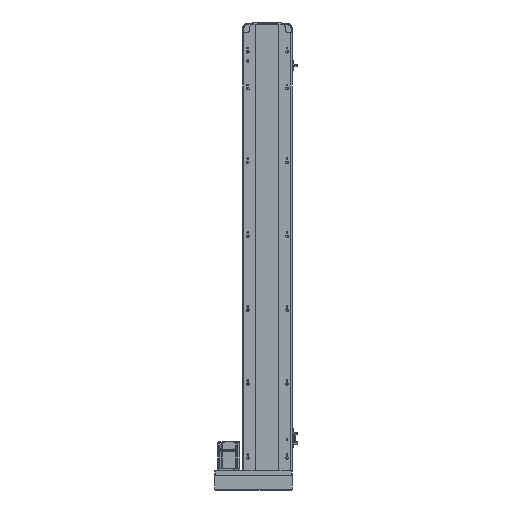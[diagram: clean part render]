
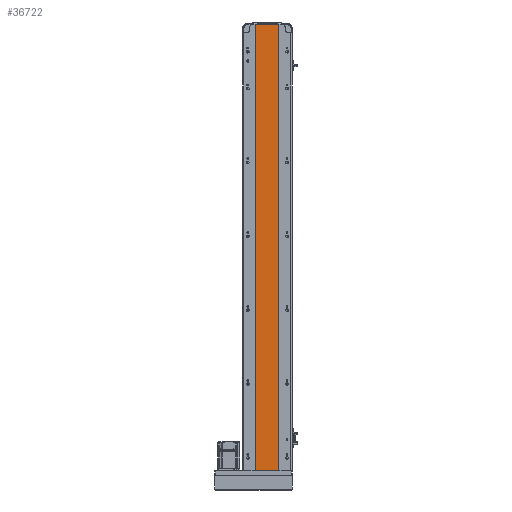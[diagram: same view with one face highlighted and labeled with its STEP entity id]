
A CAD part, front view. The second image highlights one B-rep face of the part: STEP entity #36722.
In plain terms, the highlighted planar face has unit normal (0, -1, 0).
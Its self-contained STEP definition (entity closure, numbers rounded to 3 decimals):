
#530 = VERTEX_POINT ( 'NONE', #25244 ) ;
#788 = VERTEX_POINT ( 'NONE', #5837 ) ;
#879 = FACE_OUTER_BOUND ( 'NONE', #29273, .T. ) ;
#2734 = LINE ( 'NONE', #17199, #49322 ) ;
#3825 = VERTEX_POINT ( 'NONE', #9496 ) ;
#5102 = EDGE_CURVE ( 'NONE', #788, #23937, #9906, .T. ) ;
#5837 = CARTESIAN_POINT ( 'NONE',  ( -32., 1., 1209. ) ) ;
#9496 = CARTESIAN_POINT ( 'NONE',  ( 30., 1., 1209. ) ) ;
#9906 = LINE ( 'NONE', #42806, #21888 ) ;
#11321 = CARTESIAN_POINT ( 'NONE',  ( -32., 1., 0. ) ) ;
#13441 = LINE ( 'NONE', #56855, #19106 ) ;
#14966 = ORIENTED_EDGE ( 'NONE', *, *, #33649, .F. ) ;
#16613 = DIRECTION ( 'NONE',  ( 1., 0., 0. ) ) ;
#17199 = CARTESIAN_POINT ( 'NONE',  ( 30., 1., 1209. ) ) ;
#19106 = VECTOR ( 'NONE', #16613, 1000. ) ;
#21304 = CARTESIAN_POINT ( 'NONE',  ( -32., 1., 0. ) ) ;
#21616 = EDGE_CURVE ( 'NONE', #23937, #530, #52138, .T. ) ;
#21888 = VECTOR ( 'NONE', #56981, 1000. ) ;
#23937 = VERTEX_POINT ( 'NONE', #21304 ) ;
#25244 = CARTESIAN_POINT ( 'NONE',  ( 30., 1., 0. ) ) ;
#29273 = EDGE_LOOP ( 'NONE', ( #37729, #39703, #14966, #42563 ) ) ;
#33649 = EDGE_CURVE ( 'NONE', #788, #3825, #13441, .T. ) ;
#34144 = DIRECTION ( 'NONE',  ( -1., 0., 0. ) ) ;
#34401 = DIRECTION ( 'NONE',  ( 1., 0., 0. ) ) ;
#36722 = ADVANCED_FACE ( 'NONE', ( #879 ), #52125, .F. ) ;
#37729 = ORIENTED_EDGE ( 'NONE', *, *, #21616, .T. ) ;
#39703 = ORIENTED_EDGE ( 'NONE', *, *, #43465, .F. ) ;
#39900 = DIRECTION ( 'NONE',  ( 0., 0., -1. ) ) ;
#40113 = VECTOR ( 'NONE', #34401, 1000. ) ;
#42563 = ORIENTED_EDGE ( 'NONE', *, *, #5102, .T. ) ;
#42806 = CARTESIAN_POINT ( 'NONE',  ( -32., 1., 1209. ) ) ;
#43407 = DIRECTION ( 'NONE',  ( 0., 1., 0. ) ) ;
#43465 = EDGE_CURVE ( 'NONE', #3825, #530, #2734, .T. ) ;
#49322 = VECTOR ( 'NONE', #39900, 1000. ) ;
#52125 = PLANE ( 'NONE',  #55623 ) ;
#52138 = LINE ( 'NONE', #11321, #40113 ) ;
#55623 = AXIS2_PLACEMENT_3D ( 'NONE', #56613, #43407, #34144 ) ;
#56613 = CARTESIAN_POINT ( 'NONE',  ( -32., 1., 1209. ) ) ;
#56855 = CARTESIAN_POINT ( 'NONE',  ( -32., 1., 1209. ) ) ;
#56981 = DIRECTION ( 'NONE',  ( 0., 0., -1. ) ) ;
